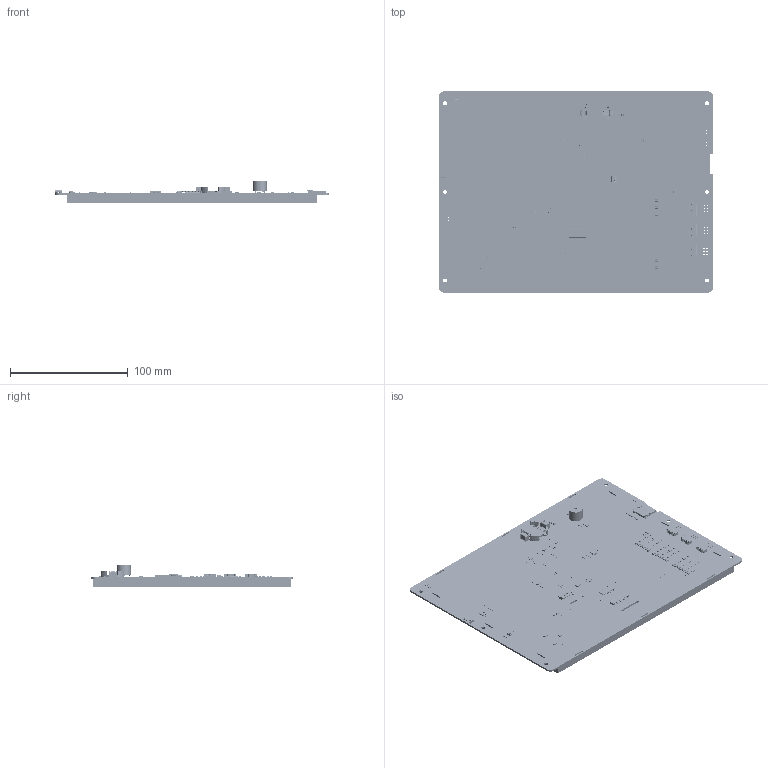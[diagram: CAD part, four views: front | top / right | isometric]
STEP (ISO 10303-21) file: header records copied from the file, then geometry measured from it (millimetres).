
FILE_DESCRIPTION(/* description */ ('Open CASCADE Model'),/* implementation_level */ '2;1');
FILE_NAME(/* name */ 'P10768-097T-L0101.stp',/* time_stamp */ '2026-04-30T17:26:59-03:00',/* author */ ('Reservaa'),/* organization */ ('Open CASCADE'),/* preprocessor_version */ 'ST-DEVELOPER v20',/* originating_system */ 'Autodesk Inventor 2024',/* authorisation */ 'Unknown');
FILE_SCHEMA (('AUTOMOTIVE_DESIGN { 1 0 10303 214 3 1 1 }'));
Products named in the file (254): PCB; Board; Open CASCADE STEP translator 7.5 1.1.1; F1; D6; C60; C59; USB1; micro_B; IZ32-USB2-MINI-USB-SMD_MICRO-4P-DIP; U8; THC63LVDM83D; CeiR-U1-TSSOP-56_L14.0-W6.1-P0.50-LS8.1-BL; COMPOUND; R95; FB1; TVS1; R25; R23; Q2; D5; R20; C12; C11; FPC3; FPC-05FB-30PH20; DqpP-FPC1-FPC-SMD_30P-P0.50_FPC-05FB-30PH20; COMPOUND_1; R19; R18; R17; FPC1; 200528-0040; D9; C46; C45; C44; C43; C41; B1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
Assembly tree (441 placements, depth 8):
  PCB
    Board
      Open CASCADE STEP translator 7.5 1.1.1
    F1
      F1206
        AbIz-F1-F1206
    D6
      ES1JW
        ThTk-D1-SOD-123FL_L2.7-W1.8-LS3.8-RD
    C60
      User Library-0603 SMD Capacitor
    C59
      User Library-0603 SMD Capacitor
    USB1
      micro_B
        IZ32-USB2-MINI-USB-SMD_MICRO-4P-DIP
    U8
      THC63LVDM83D
        CeiR-U1-TSSOP-56_L14.0-W6.1-P0.50-LS8.1-BL
          COMPOUND
    R95
      User Library-RES_1609-0603
    FB1
      User Library-RES_3216-1206
    TVS1
      SOD523
    R25
      User Library-RES_1609-0603
    R23
      User Library-RES_1609-0603
    Q2
      SOT-23-3
    D5
      SOT-23-3
    R20
      User Library-RES_1609-0603
    C12
      User Library-0603 SMD Capacitor
    C11
      User Library-0603 SMD Capacitor
    FPC3
      FPC-05FB-30PH20
        DqpP-FPC1-FPC-SMD_30P-P0.50_FPC-05FB-30PH20
          COMPOUND_1
    R19
      User Library-RES_1609-0603
    R18
      User Library-RES_1609-0603
    R17
      User Library-RES_1609-0603
    FPC1
      200528-0040
    D9
      SOD323
        SW3dPS-SOD-323F_Board5
        SW3dPS-SOD-323F_Free-Models3
          SW3dPS-SOD-323F_BODYSOD323F_3  x2
            SW3dPS-SOD-323F_Free-Models4
              SW3dPS-SOD-323F_358340561
                SW3dPS-SOD-323F_Extruded9
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Bounding box: 232.42 x 170.71 x 19.2 mm (x, y, z)
Volume: 301155.9 mm3; surface area: 235628.4 mm2
Topology: 718 solids, 718 shells, 32784 faces, 83241 edges, 52929 vertices
Faces by surface type: plane 17641, bspline 10252, cylinder 3558, sphere 842, torus 491
Full cylindrical faces by diameter (mm): 0.35 x1, 0.5 x2, 0.6 x2, 0.8 x2, 0.9 x4, 1 x1, 1.1 x25, 1.2 x2, 1.5 x1, 1.8 x2, 2 x2, 2.5 x1, 3.3 x5, 7.517 x1, 12 x1
Entity records: 331986 total; most frequent: CARTESIAN_POINT 94240, ORIENTED_EDGE 47240, DIRECTION 44255, EDGE_CURVE 23620, LINE 16819, VECTOR 16819, VERTEX_POINT 14711, AXIS2_PLACEMENT_3D 13718
